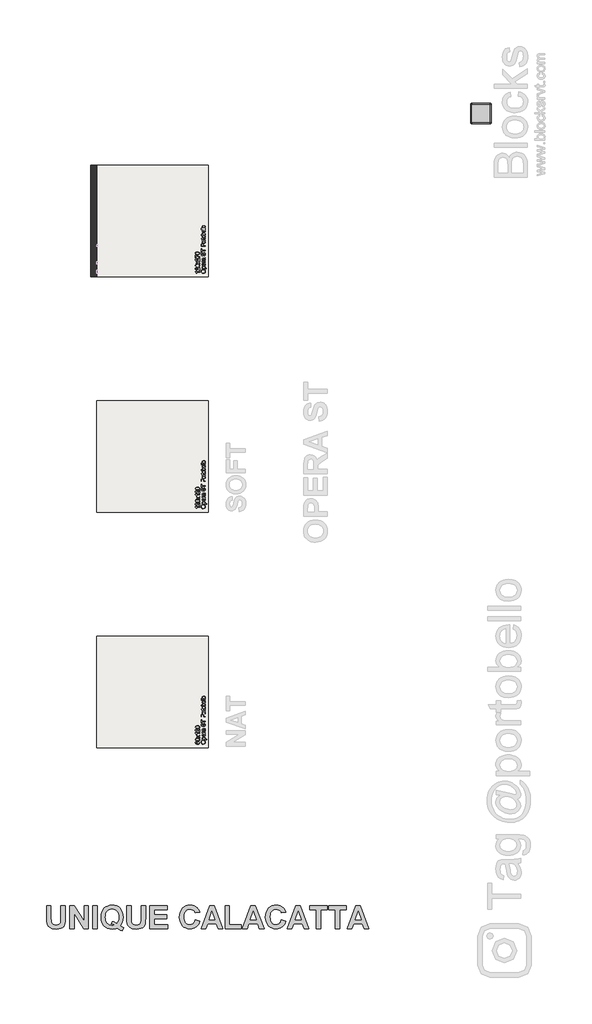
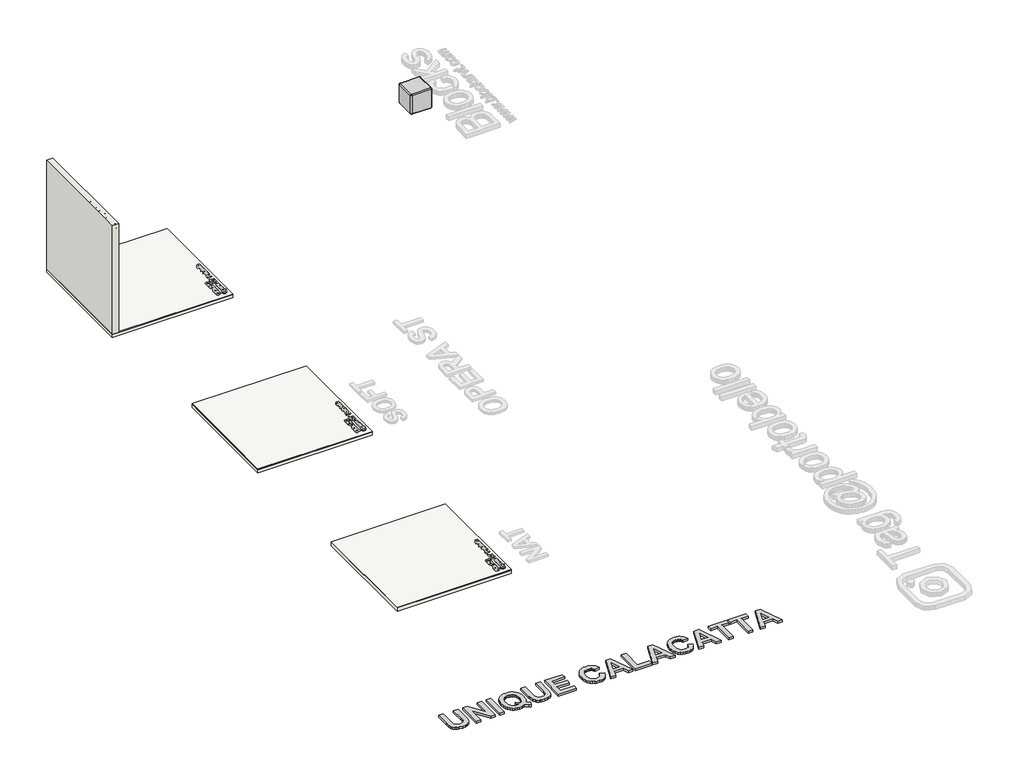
# One storey, part 1 of 6: 6 slabs, 1 furniture element, 1 proxy, 1 wall.
"""IFC4 building model written with IfcOpenShell, lengths in millimetres."""

from ifc_helpers import new_model, si_unit, frame, origin, origin_with_axes, place, context, project, spatial, polyline, outline, extrude, transform, mapped, element, save
from components import branco_22256ad2

model = new_model("IFC4")

# Units and contexts
model_context = context("Model", 3, world=origin())
ifc_project = project(units=[si_unit("LENGTHUNIT", "METRE", prefix="MILLI")], contexts=[model_context])

# Site, building, storey
site = spatial("IfcSite", under=ifc_project)
building = spatial("IfcBuilding", under=site)
storey = spatial("IfcBuildingStorey", under=building, Name="PORTOBELLO - SHOWROOM", Elevation=0.0)

# Proxy
placement = place(None, origin())
element("IfcBuildingElementProxy", 1, Name="550mm Arial", ObjectType="550mm Arial", at=placement, inside=storey, context=model_context, shape_type="SweptSolid", body=[
    extrude(outline(polyline([(-9084.0764767, -11541.5446312), (-8977.1921586, -11541.5446312), (-8977.1921586, -11844.2443602), (-8976.0439872, -11903.6709277), (-8972.5994731, -11937.7681385), (-8959.2041403, -11968.6469902), (-8934.8837827, -11992.8107789), (-8918.6267197, -12001.9135164), (-8899.6384005, -12008.4154718), (-8853.4679936, -12013.6170361), (-8807.3497762, -12008.7112129), (-8789.1573486, -12002.5789339), (-8774.2093749, -11993.9937433), (-8752.863825, -11972.1262974), (-8742.1301622, -11945.7705451), (-8738.0593728, -11907.7243206), (-8736.7024429, -11850.7854578), (-8736.7024429, -11541.5446312), (-8629.8181248, -11541.5446312), (-8629.8181248, -11835.8940228), (-8632.1492607, -11922.0764629), (-8639.1426682, -11978.5456192), (-8652.3988288, -12016.9397745), (-8673.5182236, -12048.8972114), (-8702.796594, -12074.6962745), (-8740.5296809, -12094.6153084), (-8788.9094479, -12107.3495729), (-8850.1278586, -12111.5943277), (-8921.8363806, -12106.9668491), (-8950.305812, -12101.1825008), (-8973.8520237, -12093.0844132), (-9011.6025071, -12071.791053), (-9040.5155502, -12044.9308012), (-9060.8347044, -12014.5564491), (-9072.8035213, -11982.7207879), (-9081.2582379, -11923.085462), (-9084.0764767, -11840.4867084), (-9084.0764767, -11541.5446312)])), origin_with_axes(), (0.0, 0.0, 1.0), 50.0),
    extrude(outline(polyline([(-8522.9338067, -12102.6873012), (-8522.9338067, -11541.5446312), (-8410.900114, -11541.5446312), (-8175.559773, -11919.2582241), (-8175.559773, -11541.5446312), (-8068.6754549, -11541.5446312), (-8068.6754549, -12102.6873012), (-8184.1884549, -12102.6873012), (-8416.0494887, -11730.5405999), (-8416.0494887, -12102.6873012), (-8522.9338067, -12102.6873012)])), origin_with_axes(), (0.0, 0.0, 1.0), 50.0),
    extrude(outline(polyline([(-7961.7911368, -12102.6873012), (-7961.7911368, -11541.5446312), (-7854.9068187, -11541.5446312), (-7854.9068187, -12102.6873012), (-7961.7911368, -12102.6873012)])), origin_with_axes(), (0.0, 0.0, 1.0), 50.0),
    extrude(outline(polyline([(-7301.8361415, -12028.7868156), (-7259.4581794, -12055.4035159), (-7213.6009101, -12075.9662217), (-7254.2392186, -12156.1294602), (-7303.0886921, -12136.0886506), (-7376.4324885, -12087.7958663), (-7404.092981, -12098.2076931), (-7433.2147825, -12105.6447123), (-7495.8423126, -12111.5943277), (-7555.7298883, -12106.8450733), (-7608.7458322, -12092.5973102), (-7654.8901443, -12068.8510384), (-7694.1628247, -12035.6062578), (-7725.5200811, -11993.7675884), (-7747.9181214, -11944.23965), (-7761.3569455, -11887.0224426), (-7765.8365536, -11822.1159662), (-7761.3221525, -11757.3791061), (-7747.7789491, -11700.2532305), (-7725.2069434, -11650.7383395), (-7693.6061355, -11608.834433), (-7654.2725673, -11575.4983206), (-7608.5022807, -11551.6868118), (-7556.2952757, -11537.3999065), (-7497.6515524, -11532.6376047), (-7439.5210268, -11537.3781608), (-7387.740237, -11551.5998291), (-7342.3091828, -11575.3026096), (-7303.2278644, -11608.4865023), (-7271.8097201, -11650.203396), (-7249.3681885, -11699.5051794), (-7235.9032695, -11756.3918526), (-7231.4149632, -11820.8634156), (-7236.5643379, -11888.7099066), (-7252.012462, -11947.7885433), (-7272.26203, -11988.9835409), (-7301.8361415, -12028.7868156)]), holes=[polyline([(-7390.4888897, -11967.6901807), (-7367.6124447, -11939.5425852), (-7351.3118903, -11906.0368566), (-7341.5524335, -11867.1729948), (-7338.2992812, -11822.9509999), (-7341.0653305, -11777.6460707), (-7349.3634782, -11738.4560239), (-7363.1937245, -11705.3808595), (-7382.5560692, -11678.4205776), (-7406.398022, -11657.505592), (-7433.6670924, -11642.5663166), (-7464.3632804, -11633.6027514), (-7498.4865861, -11630.6148963), (-7532.5620513, -11633.5810057), (-7563.2538902, -11642.4793339), (-7590.5621028, -11657.309881), (-7614.4866891, -11678.0726469), (-7633.9403657, -11704.7937264), (-7647.8358489, -11737.4992144), (-7656.1731389, -11776.1891108), (-7658.9522355, -11820.8634156), (-7656.2122811, -11866.1813923), (-7647.9924177, -11905.4105813), (-7634.2926455, -11938.5509826), (-7615.1129644, -11965.6025964), (-7591.7494164, -11986.6089137), (-7565.4980433, -12001.6134262), (-7536.3588453, -12010.6161336), (-7504.3318222, -12013.6170361), (-7480.0810508, -12011.8077964), (-7457.1524162, -12006.3800771), (-7490.9712825, -11990.1665054), (-7525.3468379, -11977.9889301), (-7494.4505897, -11915.6397445), (-7441.2519822, -11937.3506216), (-7390.4888897, -11967.6901807)])]), origin_with_axes(), (0.0, 0.0, 1.0), 50.0),
    extrude(outline(polyline([(-7142.3446981, -11541.5446312), (-7035.46038, -11541.5446312), (-7035.46038, -11844.2443602), (-7034.3122086, -11903.6709277), (-7030.8676944, -11937.7681385), (-7017.4723616, -11968.6469902), (-6993.1520041, -11992.8107789), (-6976.894941, -12001.9135164), (-6957.9066218, -12008.4154718), (-6911.7362149, -12013.6170361), (-6865.6179976, -12008.7112129), (-6847.4255699, -12002.5789339), (-6832.4775962, -11993.9937433), (-6811.1320464, -11972.1262974), (-6800.3983836, -11945.7705451), (-6796.3275941, -11907.7243206), (-6794.9706643, -11850.7854578), (-6794.9706643, -11541.5446312), (-6688.0863462, -11541.5446312), (-6688.0863462, -11835.8940228), (-6690.417482, -11922.0764629), (-6697.4108896, -11978.5456192), (-6710.6670501, -12016.9397745), (-6731.786445, -12048.8972114), (-6761.0648153, -12074.6962745), (-6798.7979022, -12094.6153084), (-6847.1776693, -12107.3495729), (-6908.39608, -12111.5943277), (-6980.104602, -12106.9668491), (-7008.5740334, -12101.1825008), (-7032.120245, -12093.0844132), (-7069.8707285, -12071.791053), (-7098.7837716, -12044.9308012), (-7119.1029258, -12014.5564491), (-7131.0717427, -11982.7207879), (-7139.5264592, -11923.085462), (-7142.3446981, -11840.4867084), (-7142.3446981, -11541.5446312)])), origin_with_axes(), (0.0, 0.0, 1.0), 50.0),
    extrude(outline(polyline([(-6581.2020281, -12102.6873012), (-6581.2020281, -11541.5446312), (-6162.5717822, -11541.5446312), (-6162.5717822, -11639.5219228), (-6474.31771, -11639.5219228), (-6474.31771, -11764.2202939), (-6180.3858353, -11764.2202939), (-6180.3858353, -11862.1975855), (-6474.31771, -11862.1975855), (-6474.31771, -12004.7100096), (-6153.6647557, -12004.7100096), (-6153.6647557, -12102.6873012), (-6581.2020281, -12102.6873012)])), origin_with_axes(), (0.0, 0.0, 1.0), 50.0),
    extrude(outline(polyline([(-5485.6377677, -11888.918665), (-5378.7534496, -11924.546771), (-5393.5144105, -11966.8073065), (-5412.4679366, -12003.2660971), (-5435.614028, -12033.9231429), (-5462.9526845, -12058.778444), (-5494.3708288, -12077.988569), (-5529.7553833, -12091.7100869), (-5569.1063481, -12099.9429976), (-5612.4237231, -12102.6873012), (-5665.9441666, -12097.9989347), (-5714.4718042, -12083.9338352), (-5758.0066359, -12060.4920028), (-5796.5486617, -12027.6734373), (-5828.0885817, -11986.7219912), (-5850.617096, -11938.8815168), (-5864.1342046, -11884.1520141), (-5868.6399075, -11822.5334831), (-5864.0950624, -11757.5574206), (-5850.4605272, -11700.270627), (-5827.7363019, -11650.6731025), (-5795.9223864, -11608.7648469), (-5756.6975465, -11575.4591784), (-5711.740548, -11551.6694153), (-5661.0513908, -11537.3955573), (-5604.6300749, -11532.6376047), (-5555.2934984, -11536.5605236), (-5510.827952, -11548.3292803), (-5471.2334357, -11567.9438748), (-5436.5099496, -11595.4043071), (-5418.4436468, -11615.9409181), (-5402.7954625, -11640.5309219), (-5389.5653968, -11669.1743187), (-5378.7534496, -11701.8711084), (-5485.6377677, -11719.6851614), (-5492.3745763, -11700.1097091), (-5502.0079082, -11682.7175221), (-5514.5377633, -11667.5086003), (-5529.9641418, -11654.4829439), (-5547.7477509, -11644.0406731), (-5567.349298, -11636.5819082), (-5588.7687831, -11632.1066493), (-5612.0062062, -11630.6148963), (-5643.7679321, -11633.3244068), (-5672.3895832, -11641.4529383), (-5697.8711595, -11655.0004908), (-5720.2126611, -11673.9670644), (-5738.3876922, -11698.9963308), (-5751.3698573, -11730.7319618), (-5759.1591564, -11769.1739576), (-5761.7555894, -11814.322318), (-5759.2374408, -11862.1106028), (-5751.682995, -11902.4879632), (-5739.0922519, -11935.4543992), (-5721.4652117, -11961.0099108), (-5699.8021751, -11980.128704), (-5675.1034429, -11993.7849849), (-5647.3690151, -12001.9787534), (-5616.5988918, -12004.7100096), (-5593.6920028, -12002.9660069), (-5572.4290865, -11997.7339986), (-5552.8101429, -11989.0139849), (-5534.8351719, -11976.8059656), (-5518.8955957, -11960.8489928), (-5505.3828362, -11940.8821185), (-5494.2968935, -11916.9053425), (-5485.6377677, -11888.918665)])), origin_with_axes(), (0.0, 0.0, 1.0), 50.0),
    extrude(outline(polyline([(-4817.6107796, -12102.6873012), (-4929.922817, -12102.6873012), (-4973.9012604, -11977.9889301), (-5185.7214845, -11977.9889301), (-5229.1432387, -12102.6873012), (-5343.1253436, -12102.6873012), (-5138.5420785, -11541.5446312), (-5024.4208013, -11541.5446312), (-4817.6107796, -12102.6873012)]), holes=[polyline([(-5008.1376435, -11880.0116385), (-5080.3680616, -11675.1500288), (-5151.6242736, -11880.0116385), (-5008.1376435, -11880.0116385)])]), origin_with_axes(), (0.0, 0.0, 1.0), 50.0),
    extrude(outline(polyline([(-4764.1686206, -12102.6873012), (-4764.1686206, -11541.5446312), (-4657.2843025, -11541.5446312), (-4657.2843025, -12004.7100096), (-4372.2594542, -12004.7100096), (-4372.2594542, -12102.6873012), (-4764.1686206, -12102.6873012)])), origin_with_axes(), (0.0, 0.0, 1.0), 50.0),
    extrude(outline(polyline([(-3820.0238108, -12102.6873012), (-3932.3358481, -12102.6873012), (-3976.3142915, -11977.9889301), (-4188.1345156, -11977.9889301), (-4231.5562699, -12102.6873012), (-4345.5383747, -12102.6873012), (-4140.9551096, -11541.5446312), (-4026.8338325, -11541.5446312), (-3820.0238108, -12102.6873012)]), holes=[polyline([(-4010.5506746, -11880.0116385), (-4082.7810927, -11675.1500288), (-4154.0373048, -11880.0116385), (-4010.5506746, -11880.0116385)])]), origin_with_axes(), (0.0, 0.0, 1.0), 50.0),
    extrude(outline(polyline([(-3401.3935649, -11888.918665), (-3294.5092468, -11924.546771), (-3309.2702077, -11966.8073065), (-3328.2237339, -12003.2660971), (-3351.3698252, -12033.9231429), (-3378.7084818, -12058.778444), (-3410.126626, -12077.988569), (-3445.5111806, -12091.7100869), (-3484.8621453, -12099.9429976), (-3528.1795203, -12102.6873012), (-3581.6999638, -12097.9989347), (-3630.2276014, -12083.9338352), (-3673.7624331, -12060.4920028), (-3712.3044589, -12027.6734373), (-3743.844379, -11986.7219912), (-3766.3728933, -11938.8815168), (-3779.8900019, -11884.1520141), (-3784.3957047, -11822.5334831), (-3779.8508597, -11757.5574206), (-3766.2163245, -11700.270627), (-3743.4920991, -11650.6731025), (-3711.6781836, -11608.7648469), (-3672.4533438, -11575.4591784), (-3627.4963452, -11551.6694153), (-3576.807188, -11537.3955573), (-3520.3858722, -11532.6376047), (-3471.0492956, -11536.5605236), (-3426.5837492, -11548.3292803), (-3386.989233, -11567.9438748), (-3352.2657468, -11595.4043071), (-3334.199444, -11615.9409181), (-3318.5512598, -11640.5309219), (-3305.321194, -11669.1743187), (-3294.5092468, -11701.8711084), (-3401.3935649, -11719.6851614), (-3408.1303735, -11700.1097091), (-3417.7637054, -11682.7175221), (-3430.2935606, -11667.5086003), (-3445.719939, -11654.4829439), (-3463.5035481, -11644.0406731), (-3483.1050952, -11636.5819082), (-3504.5245803, -11632.1066493), (-3527.7620035, -11630.6148963), (-3559.5237293, -11633.3244068), (-3588.1453804, -11641.4529383), (-3613.6269568, -11655.0004908), (-3635.9684583, -11673.9670644), (-3654.1434895, -11698.9963308), (-3667.1256546, -11730.7319618), (-3674.9149536, -11769.1739576), (-3677.5113866, -11814.322318), (-3674.993238, -11862.1106028), (-3667.4387922, -11902.4879632), (-3654.8480492, -11935.4543992), (-3637.2210089, -11961.0099108), (-3615.5579723, -11980.128704), (-3590.8592401, -11993.7849849), (-3563.1248123, -12001.9787534), (-3532.354689, -12004.7100096), (-3509.4478, -12002.9660069), (-3488.1848837, -11997.7339986), (-3468.5659401, -11989.0139849), (-3450.5909691, -11976.8059656), (-3434.6513929, -11960.8489928), (-3421.1386334, -11940.8821185), (-3410.0526908, -11916.9053425), (-3401.3935649, -11888.918665)])), origin_with_axes(), (0.0, 0.0, 1.0), 50.0),
    extrude(outline(polyline([(-2733.3665768, -12102.6873012), (-2845.6786142, -12102.6873012), (-2889.6570576, -11977.9889301), (-3101.4772817, -11977.9889301), (-3144.8990359, -12102.6873012), (-3258.8811408, -12102.6873012), (-3054.2978757, -11541.5446312), (-2940.1765986, -11541.5446312), (-2733.3665768, -12102.6873012)]), holes=[polyline([(-2923.8934407, -11880.0116385), (-2996.1238588, -11675.1500288), (-3067.3800709, -11880.0116385), (-2923.8934407, -11880.0116385)])]), origin_with_axes(), (0.0, 0.0, 1.0), 50.0),
    extrude(outline(polyline([(-2555.2260467, -12102.6873012), (-2555.2260467, -11639.5219228), (-2715.5525238, -11639.5219228), (-2715.5525238, -11541.5446312), (-2288.0152515, -11541.5446312), (-2288.0152515, -11639.5219228), (-2448.3417286, -11639.5219228), (-2448.3417286, -12102.6873012), (-2555.2260467, -12102.6873012)])), origin_with_axes(), (0.0, 0.0, 1.0), 50.0),
    extrude(outline(polyline([(-2092.0606683, -12102.6873012), (-2092.0606683, -11639.5219228), (-2252.3871454, -11639.5219228), (-2252.3871454, -11541.5446312), (-1824.8498731, -11541.5446312), (-1824.8498731, -11639.5219228), (-1985.1763502, -11639.5219228), (-1985.1763502, -12102.6873012), (-2092.0606683, -12102.6873012)])), origin_with_axes(), (0.0, 0.0, 1.0), 50.0),
    extrude(outline(polyline([(-1281.5212561, -12102.6873012), (-1393.8332935, -12102.6873012), (-1437.8117369, -11977.9889301), (-1649.631961, -11977.9889301), (-1693.0537152, -12102.6873012), (-1807.03582, -12102.6873012), (-1602.452555, -11541.5446312), (-1488.3312778, -11541.5446312), (-1281.5212561, -12102.6873012)]), holes=[polyline([(-1472.04812, -11880.0116385), (-1544.2785381, -11675.1500288), (-1615.5347501, -11880.0116385), (-1472.04812, -11880.0116385)])]), origin_with_axes(), (0.0, 0.0, 1.0), 50.0),
])

# Furniture
branco_shape = branco_22256ad2(model_context)
element("IfcFurniture", 2, ObjectType="Blks_Mob_Blocks Revit_Cubo : Branco", at=placement, inside=storey, context=model_context, shape_type="MappedRepresentation", body=[
    mapped(branco_shape, transform((1435.2148271, 7631.3687133, 0.0), x_axis=(1.0, 0.0, 0.0), y_axis=(0.0, 1.0, 0.0), z_axis=(0.0, 0.0, 1.0))),
])

# Slabs
element("IfcSlab", 3, ObjectType="PORTOBELLO - LAJE", at=placement, inside=storey, context=model_context, shape_type="SweptSolid", body=[
    extrude(outline(polyline([(-5165.9813168, -5024.608239), (-5165.9813168, -7724.608239), (-7865.9813168, -7724.608239), (-7865.9813168, -5024.608239), (-5165.9813168, -5024.608239)])), frame((0.0, 0.0, -80.0), z_axis=(0.0, 0.0, 1.0), x_axis=(1.0, 0.0, 0.0)), (0.0, 0.0, 1.0), 80.0),
])
element("IfcSlab", 4, ObjectType="PORTOBELLO - CALACATTA OPERA ST 60X120 NAT RET", at=placement, inside=storey, context=model_context, shape_type="SweptSolid", body=[
    extrude(outline(polyline([(-5165.9813168, -7724.608239), (-7865.9813168, -7724.608239), (-7865.9813168, -5024.608239), (-5165.9813168, -5024.608239), (-5165.9813168, -7724.608239)])), origin_with_axes(), (0.0, 0.0, 1.0), 19.0),
])
element("IfcSlab", 5, ObjectType="PORTOBELLO - CALACATTA OPERA ST 120X270 SOFT RET", at=placement, inside=storey, context=model_context, shape_type="SweptSolid", body=[
    extrude(outline(polyline([(-5165.9813168, 3675.391761), (-7865.9813168, 3675.391761), (-7865.9813168, 6375.391761), (-5165.9813168, 6375.391761), (-5165.9813168, 3675.391761)])), frame((0.0, 0.0, -17.0), z_axis=(0.0, 0.0, 1.0), x_axis=(1.0, 0.0, 0.0)), (0.0, 0.0, 1.0), 17.0),
])
element("IfcSlab", 6, ObjectType="PORTOBELLO - LAJE", at=placement, inside=storey, context=model_context, shape_type="SweptSolid", body=[
    extrude(outline(polyline([(-5165.9813168, 6375.391761), (-5165.9813168, 3675.391761), (-8015.9813168, 3675.391761), (-8015.9813168, 6375.391761), (-5165.9813168, 6375.391761)])), frame((0.0, 0.0, -97.0), z_axis=(0.0, 0.0, 1.0), x_axis=(1.0, 0.0, 0.0)), (0.0, 0.0, 1.0), 80.0),
])
element("IfcSlab", 7, ObjectType="PORTOBELLO - LAJE", at=placement, inside=storey, context=model_context, shape_type="SweptSolid", body=[
    extrude(outline(polyline([(-5165.9813168, 675.391761), (-5165.9813168, -2024.608239), (-7865.9813168, -2024.608239), (-7865.9813168, 675.391761), (-5165.9813168, 675.391761)])), frame((0.0, 0.0, -80.0), z_axis=(0.0, 0.0, 1.0), x_axis=(1.0, 0.0, 0.0)), (0.0, 0.0, 1.0), 80.0),
])
element("IfcSlab", 8, ObjectType="PORTOBELLO - CALACATTA OPERA ST 120X120 SOFT RET", at=placement, inside=storey, context=model_context, shape_type="SweptSolid", body=[
    extrude(outline(polyline([(-5165.9813168, -2024.608239), (-7865.9813168, -2024.608239), (-7865.9813168, 675.391761), (-5165.9813168, 675.391761), (-5165.9813168, -2024.608239)])), origin_with_axes(), (0.0, 0.0, 1.0), 17.0),
])

# Wall
element("IfcWall", 9, ObjectType="PORTOBELLO - CALACATTA OPERA ST 120X270 SOFT RET", at=placement, inside=storey, context=model_context, shape_type="SweptSolid", body=[
    extrude(outline(polyline([(-7865.9813168, 6375.391761), (-7865.9813168, 3675.391761), (-8015.9813168, 3675.391761), (-8015.9813168, 6375.391761), (-7865.9813168, 6375.391761)])), frame((0.0, 0.0, -17.0), z_axis=(0.0, 0.0, 1.0), x_axis=(1.0, 0.0, 0.0)), (0.0, 0.0, 1.0), 2717.0),
])

save(model, "model.ifc")
